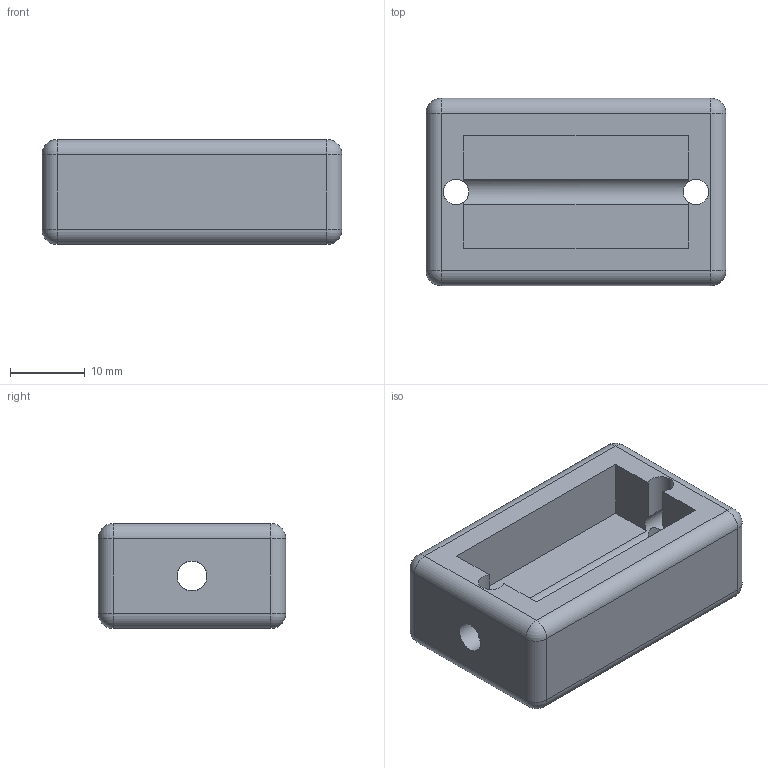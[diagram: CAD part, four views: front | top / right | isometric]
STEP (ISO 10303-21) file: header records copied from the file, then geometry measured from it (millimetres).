
FILE_DESCRIPTION(('Open CASCADE Model'),'2;1');
FILE_NAME('Open CASCADE Shape Model','2026-11-04T08:45:16',('Author'),( 'Open CASCADE'),'Open CASCADE STEP processor 7.8','Open CASCADE 7.8' ,'Unknown');
FILE_SCHEMA(('AUTOMOTIVE_DESIGN { 1 0 10303 214 1 1 1 1 }'));
Length unit declared in the file: millimetre
Products named in the file (1): Open CASCADE STEP translator 7.8 12
Bounding box: 40 x 25 x 14 mm (x, y, z)
Volume: 9764.9 mm3; surface area: 4464.9 mm2
Topology: 1 solids, 1 shells, 39 faces, 98 edges, 52 vertices
Faces by surface type: cylinder 17, plane 14, sphere 8
Full cylindrical faces by diameter (mm): 3.4 x2, 4 x1
Entity records: 3947 total; most frequent: CARTESIAN_POINT 2114, DIRECTION 341, LINE 184, VECTOR 184, ORIENTED_EDGE 180, PCURVE 180, DEFINITIONAL_REPRESENTATION 180, EDGE_CURVE 90
